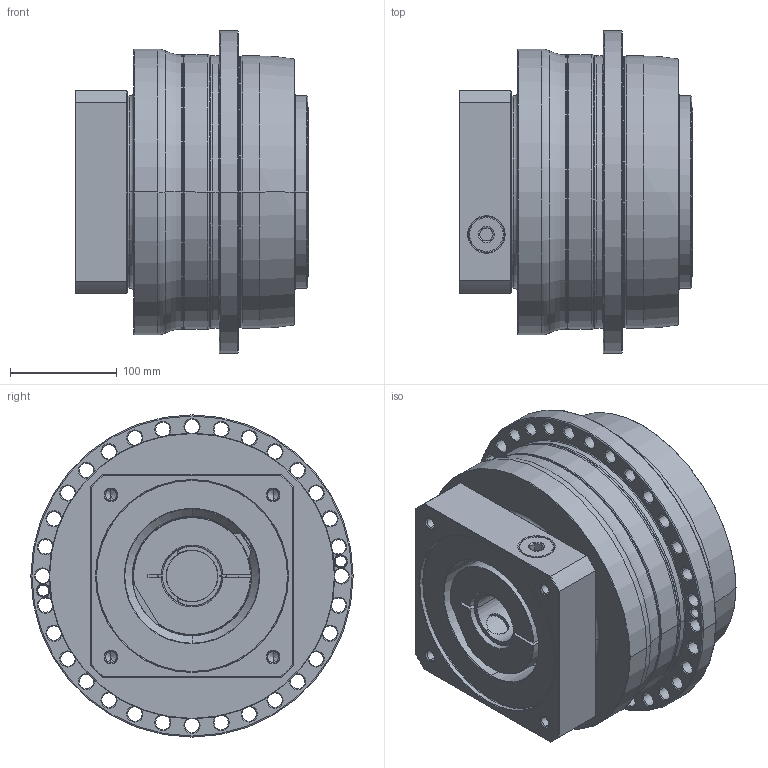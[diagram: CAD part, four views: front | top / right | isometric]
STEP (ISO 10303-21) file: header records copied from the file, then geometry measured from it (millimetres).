
FILE_DESCRIPTION((''),'2;1');
FILE_NAME('AP255_1ST_48-P0409B10201_ASM','2018-05-25T',('d01226'),(''),'PRO/ENGINEER BY PARAMETRIC TECHNOLOGY CORPORATION, 2008410','PRO/ENGINEER BY PARAMETRIC TECHNOLOGY CORPORATION, 2008410','');
FILE_SCHEMA(('CONFIG_CONTROL_DESIGN'));
Length unit declared in the file: millimetre
Products named in the file (9): P0278701003; P0359701103; P1318710301; P0503B00016; P0912753001; P1211700001; P0409B10201; 21711426021; AP255_1ST_48-P0409B10201_ASM
Assembly tree (8 placements, depth 2):
  AP255_1ST_48-P0409B10201_ASM
    P0278701003
    P0359701103
    P1318710301
    P0503B00016
    P0912753001
    P1211700001
    P0409B10201
    21711426021
Bounding box: 219 x 302 x 302 mm (x, y, z)
Volume: 9210879.4 mm3; surface area: 761856.4 mm2
Topology: 9 solids, 32 shells, 681 faces, 1635 edges, 995 vertices
Faces by surface type: cylinder 275, cone 220, plane 100, torus 72, bspline 14
Entity records: 25083 total; most frequent: CARTESIAN_POINT 8400, DIRECTION 3843, ORIENTED_EDGE 3156, AXIS2_PLACEMENT_3D 1642, EDGE_CURVE 1625, VERTEX_POINT 995, CIRCLE 946, EDGE_LOOP 822
